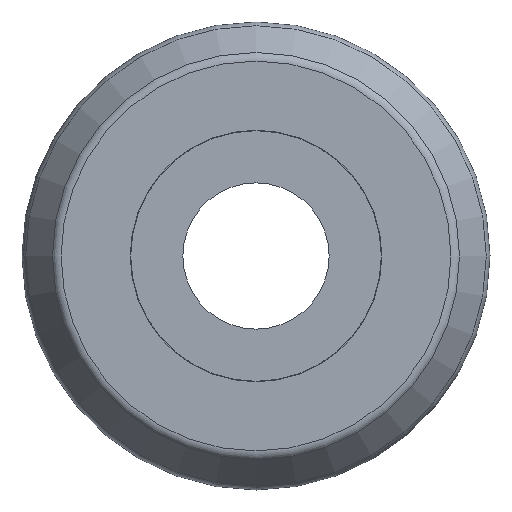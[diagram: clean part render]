
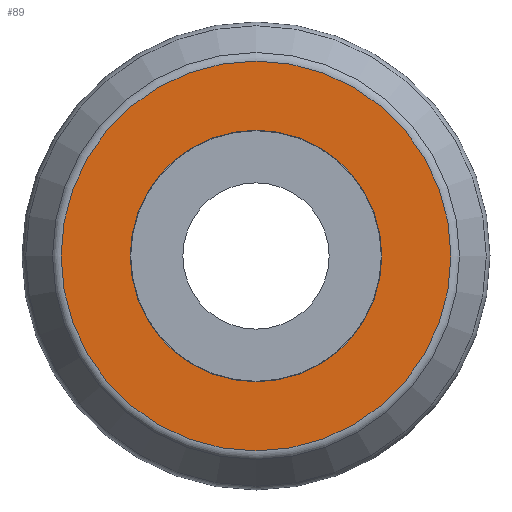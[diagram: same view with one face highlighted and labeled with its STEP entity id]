
A CAD part, left-side view. The second image highlights one B-rep face of the part: STEP entity #89.
In plain terms, the highlighted planar face has unit normal (-1, 0, 0).
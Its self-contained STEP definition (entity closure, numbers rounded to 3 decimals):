
#89 = ADVANCED_FACE( '', ( #136, #137 ), #138, .T. );
#136 = FACE_BOUND( '', #190, .T. );
#137 = FACE_OUTER_BOUND( '', #191, .T. );
#138 = PLANE( '', #192 );
#190 = EDGE_LOOP( '', ( #272 ) );
#191 = EDGE_LOOP( '', ( #273 ) );
#192 = AXIS2_PLACEMENT_3D( '', #274, #275, #276 );
#272 = ORIENTED_EDGE( '', *, *, #307, .T. );
#273 = ORIENTED_EDGE( '', *, *, #306, .F. );
#274 = CARTESIAN_POINT( '', ( -3.5, 9.329, 0. ) );
#275 = DIRECTION( '', ( -1., 0., 0. ) );
#276 = DIRECTION( '', ( 0., 0., 1. ) );
#306 = EDGE_CURVE( '', #338, #338, #339, .T. );
#307 = EDGE_CURVE( '', #340, #340, #341, .T. );
#338 = VERTEX_POINT( '', #374 );
#339 = CIRCLE( '', #375, 9.329 );
#340 = VERTEX_POINT( '', #376 );
#341 = CIRCLE( '', #377, 6.02 );
#374 = CARTESIAN_POINT( '', ( -3.5, 0., -9.329 ) );
#375 = AXIS2_PLACEMENT_3D( '', #424, #425, #426 );
#376 = CARTESIAN_POINT( '', ( -3.5, 0., -6.02 ) );
#377 = AXIS2_PLACEMENT_3D( '', #427, #428, #429 );
#424 = CARTESIAN_POINT( '', ( -3.5, 0., 0. ) );
#425 = DIRECTION( '', ( 1., 0., 0. ) );
#426 = DIRECTION( '', ( 0., 0., -1. ) );
#427 = CARTESIAN_POINT( '', ( -3.5, 0., 0. ) );
#428 = DIRECTION( '', ( 1., 0., 0. ) );
#429 = DIRECTION( '', ( 0., 0., -1. ) );
